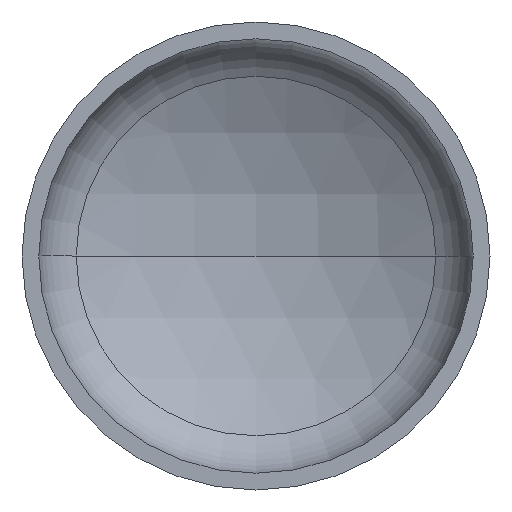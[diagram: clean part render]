
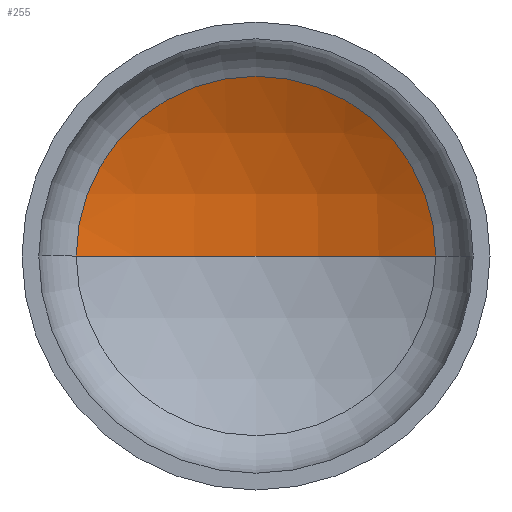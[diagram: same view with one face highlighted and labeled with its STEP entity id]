
A CAD part, front view. The second image highlights one B-rep face of the part: STEP entity #255.
In plain terms, the highlighted spherical face has radius 1920 mm.
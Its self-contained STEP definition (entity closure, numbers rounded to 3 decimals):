
#4 = AXIS2_PLACEMENT_3D ( 'NONE', #254, #163, #371 ) ;
#13 = AXIS2_PLACEMENT_3D ( 'NONE', #253, #257, #154 ) ;
#22 = EDGE_LOOP ( 'NONE', ( #32, #28, #125 ) ) ;
#28 = ORIENTED_EDGE ( 'NONE', *, *, #346, .T. ) ;
#32 = ORIENTED_EDGE ( 'NONE', *, *, #350, .F. ) ;
#38 = AXIS2_PLACEMENT_3D ( 'NONE', #243, #239, #186 ) ;
#55 = AXIS2_PLACEMENT_3D ( 'NONE', #292, #258, #207 ) ;
#59 = VERTEX_POINT ( 'NONE', #298 ) ;
#87 = VERTEX_POINT ( 'NONE', #378 ) ;
#106 = VERTEX_POINT ( 'NONE', #317 ) ;
#120 = EDGE_CURVE ( 'NONE', #59, #106, #399, .T. ) ;
#125 = ORIENTED_EDGE ( 'NONE', *, *, #120, .T. ) ;
#154 = DIRECTION ( 'NONE',  ( -1., 0., 0. ) ) ;
#163 = DIRECTION ( 'NONE',  ( 0., 0., 1. ) ) ;
#186 = DIRECTION ( 'NONE',  ( -1., 0., 0. ) ) ;
#207 = DIRECTION ( 'NONE',  ( 1., 0., 0. ) ) ;
#216 = SPHERICAL_SURFACE ( 'NONE', #38, 1920. ) ;
#239 = DIRECTION ( 'NONE',  ( 0., 0., -1. ) ) ;
#243 = CARTESIAN_POINT ( 'NONE',  ( 0., -1259.766, 0. ) ) ;
#253 = CARTESIAN_POINT ( 'NONE',  ( 0., -1259.766, 0. ) ) ;
#254 = CARTESIAN_POINT ( 'NONE',  ( 0., -1259.766, 0. ) ) ;
#255 = ADVANCED_FACE ( 'NONE', ( #265 ), #216, .F. ) ;
#257 = DIRECTION ( 'NONE',  ( 0., 0., -1. ) ) ;
#258 = DIRECTION ( 'NONE',  ( 0., -1., 0. ) ) ;
#265 = FACE_OUTER_BOUND ( 'NONE', #22, .T. ) ;
#292 = CARTESIAN_POINT ( 'NONE',  ( 0., 424.589, 0. ) ) ;
#298 = CARTESIAN_POINT ( 'NONE',  ( 921.6, 424.589, 0. ) ) ;
#301 = CIRCLE ( 'NONE', #4, 1920. ) ;
#310 = CIRCLE ( 'NONE', #13, 1920. ) ;
#317 = CARTESIAN_POINT ( 'NONE',  ( -921.6, 424.589, 0. ) ) ;
#346 = EDGE_CURVE ( 'NONE', #87, #59, #310, .T. ) ;
#350 = EDGE_CURVE ( 'NONE', #87, #106, #301, .T. ) ;
#371 = DIRECTION ( 'NONE',  ( 1., 0., 0. ) ) ;
#378 = CARTESIAN_POINT ( 'NONE',  ( 0., 660.234, 0. ) ) ;
#399 = CIRCLE ( 'NONE', #55, 921.6 ) ;
